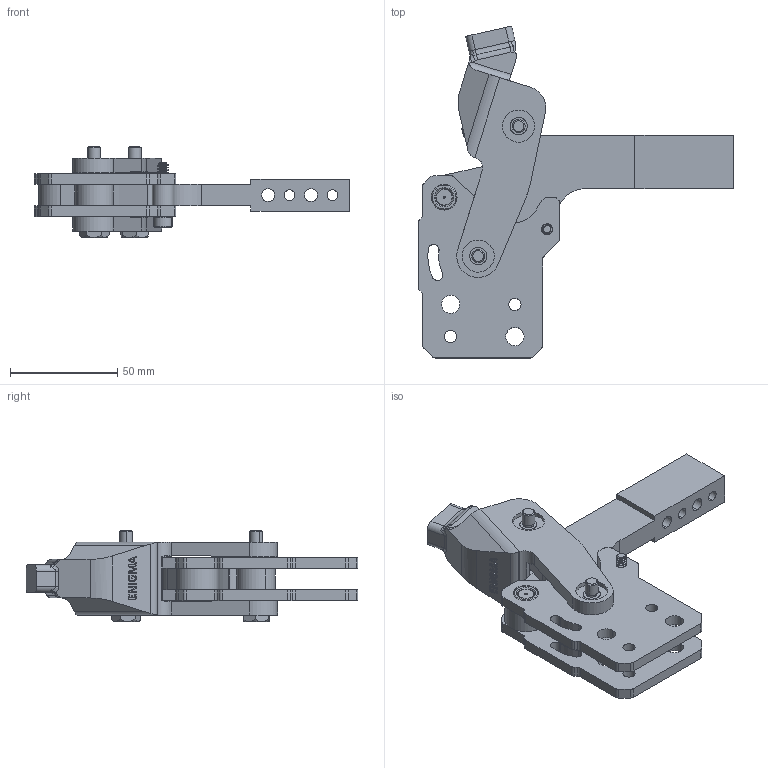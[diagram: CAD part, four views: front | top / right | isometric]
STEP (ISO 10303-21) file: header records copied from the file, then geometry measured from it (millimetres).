
FILE_DESCRIPTION (( 'STEP AP203' ), '1' );
FILE_NAME ('1543_D.STEP', '2022-12-02T09:35:36', ( '' ), ( '' ), 'SwSTEP 2.0', 'SolidWorks 2023', '' );
FILE_SCHEMA (( 'CONFIG_CONTROL_DESIGN' ));
Length unit declared in the file: millimetre
Products named in the file (11): 1543_D; 1533_cap8x18_ara mesafe burcu_Varsay_X2_0131_X0_lan; Fizibilite_Bask_X2_0131_X0__Kolu_Varsay_X2_0131_X0_lan; 1533_dovme mafsal_Varsay_X2_0131_X0_lan; 1533_Cap8x20 T_X2_0131_X0_rt_X2_0131_X0_ll_X2_0131_X0_ Pim_Varsay_X2_0131_X0_lan; S_M5x25_A_X2_0130_X0_C(_X2_0130_X0_MBUS_C_X2_0130_X0_VATA); O_M6x_X2_00d8_X0_8x30_YAC(M6_OTOMAT_YAY_ASKI_C_X2_0130_X0_VATASI); 1533_cap5x10_on paralel burc_Varsay_X2_0131_X0_lan; Burc_1503_12x8x5_Varsay_X2_0131_X0_lan; AS_3_D_G_Varsay_X2_0131_X0_lan; 1533_mafsal_Varsay_X2_0131_X0_lan
Assembly tree (22 placements, depth 2):
  1543_D
    AS_3_D_G_Varsay_X2_0131_X0_lan  x2
    1533_cap5x10_on paralel burc_Varsay_X2_0131_X0_lan
    1533_cap8x18_ara mesafe burcu_Varsay_X2_0131_X0_lan  x2
    1533_Cap8x20 T_X2_0131_X0_rt_X2_0131_X0_ll_X2_0131_X0_ Pim_Varsay_X2_0131_X0_lan  x2
    1533_dovme mafsal_Varsay_X2_0131_X0_lan
    1533_mafsal_Varsay_X2_0131_X0_lan  x2
    Burc_1503_12x8x5_Varsay_X2_0131_X0_lan  x8
    Fizibilite_Bask_X2_0131_X0__Kolu_Varsay_X2_0131_X0_lan
    O_M6x_X2_00d8_X0_8x30_YAC(M6_OTOMAT_YAY_ASKI_C_X2_0130_X0_VATASI)  x2
    S_M5x25_A_X2_0130_X0_C(_X2_0130_X0_MBUS_C_X2_0130_X0_VATA)
Bounding box: 147 x 154.87 x 42.5 mm (x, y, z)
Volume: 150649.5 mm3; surface area: 66603.5 mm2
Topology: 21 solids, 25 shells, 1744 faces, 4688 edges, 3080 vertices
Faces by surface type: plane 1220, cylinder 311, cone 132, bspline 81
Entity records: 43357 total; most frequent: CARTESIAN_POINT 21508, ORIENTED_EDGE 4420, DIRECTION 3924, EDGE_CURVE 2270, VERTEX_POINT 1501, VECTOR 1364, LINE 1364, AXIS2_PLACEMENT_3D 1280
